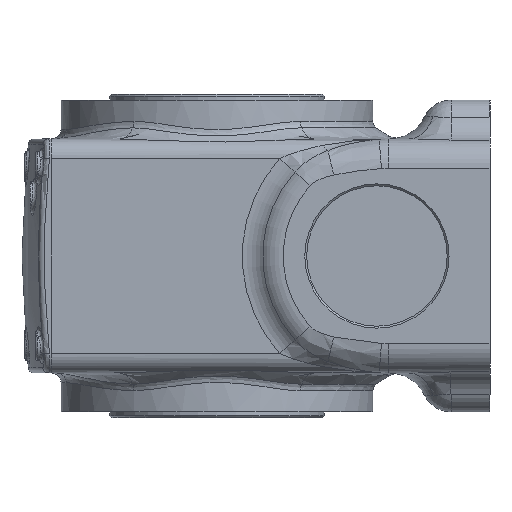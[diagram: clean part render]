
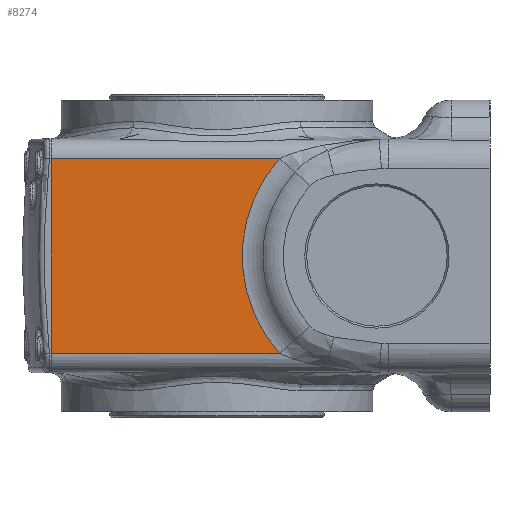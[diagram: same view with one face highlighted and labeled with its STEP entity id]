
A CAD part, left-side view. The second image highlights one B-rep face of the part: STEP entity #8274.
In plain terms, the highlighted planar face has unit normal (-1, 0, 0).
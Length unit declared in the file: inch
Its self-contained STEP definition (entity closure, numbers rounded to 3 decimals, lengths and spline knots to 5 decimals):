
#1467=FACE_OUTER_BOUND('',#2202,.T.);
#2202=EDGE_LOOP('',(#6883,#6884,#6885,#6886));
#2473=LINE('',#11938,#2673);
#2572=LINE('',#21434,#2772);
#2573=LINE('',#21437,#2773);
#2673=VECTOR('',#9751,3.93701);
#2772=VECTOR('',#11122,4.61017);
#2773=VECTOR('',#11127,4.61017);
#3218=CIRCLE('',#9160,2.95276);
#3442=VERTEX_POINT('',#11934);
#3444=VERTEX_POINT('',#11937);
#3937=VERTEX_POINT('',#21335);
#3938=VERTEX_POINT('',#21343);
#4215=EDGE_CURVE('',#3442,#3444,#2473,.T.);
#4951=EDGE_CURVE('',#3938,#3937,#3218,.T.);
#4956=EDGE_CURVE('',#3444,#3938,#2572,.T.);
#4957=EDGE_CURVE('',#3937,#3442,#2573,.T.);
#6883=ORIENTED_EDGE('',*,*,#4951,.F.);
#6884=ORIENTED_EDGE('',*,*,#4956,.F.);
#6885=ORIENTED_EDGE('',*,*,#4215,.F.);
#6886=ORIENTED_EDGE('',*,*,#4957,.F.);
#7253=PLANE('',#9166);
#8274=ADVANCED_FACE('',(#1467),#7253,.F.);
#9160=AXIS2_PLACEMENT_3D('',#21345,#11114,#11115);
#9166=AXIS2_PLACEMENT_3D('',#21438,#11128,#11129);
#9751=DIRECTION('',(0.,0.,1.));
#11114=DIRECTION('center_axis',(-1.,0.,0.));
#11115=DIRECTION('ref_axis',(0.,1.,0.));
#11122=DIRECTION('',(0.,-1.,0.));
#11127=DIRECTION('',(0.,1.,0.));
#11128=DIRECTION('center_axis',(1.,0.,0.));
#11129=DIRECTION('ref_axis',(0.,0.,1.));
#11934=CARTESIAN_POINT('',(-4.80633,4.61237,-1.9685));
#11937=CARTESIAN_POINT('',(-4.80633,4.61237,1.9685));
#11938=CARTESIAN_POINT('',(-4.80633,4.61237,-1.1811));
#21335=CARTESIAN_POINT('',(-4.80633,0.0022,-1.9685));
#21343=CARTESIAN_POINT('',(-4.80633,0.0022,1.9685));
#21345=CARTESIAN_POINT('Origin',(-4.80633,-2.19866,0.));
#21434=CARTESIAN_POINT('',(-4.80633,2.3978,1.9685));
#21437=CARTESIAN_POINT('',(-4.80633,2.3978,-1.9685));
#21438=CARTESIAN_POINT('Origin',(-4.80633,4.61237,-2.3622));
